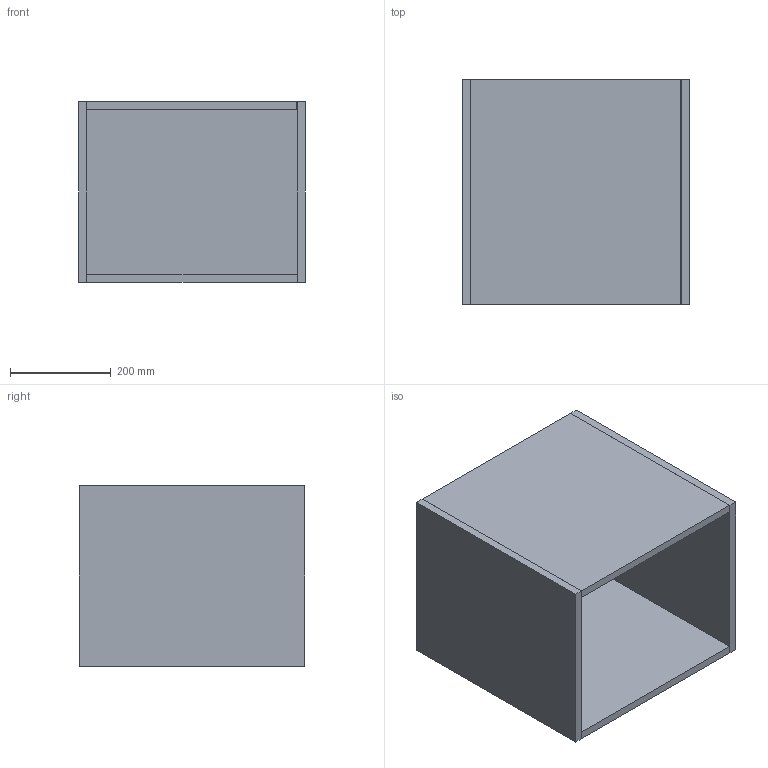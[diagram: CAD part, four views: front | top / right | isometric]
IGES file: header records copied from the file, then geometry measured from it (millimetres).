
Start section: Data from Parasolid IGES Translator 19.0.9, Copyright(c) 2006 Siemens PL M Software. All Rights Reserved.
Global section: file name: noorth-SI-H 36 D 47 W 45_8360.igs; native system: By Siemens PLM Incorporated; preprocessor: XPlus GENERIC/IGES 19.0.9; author: Noname; organization: Noname; date: 20200601.093931; units: metre
Bounding box: 450.01 x 448.06 x 360 mm (x, y, z)
Volume: 11547150.3 mm3; surface area: 1780031.4 mm2
Topology: 5 solids, 5 shells, 30 faces, 60 edges, 40 vertices
Faces by surface type: plane 30
